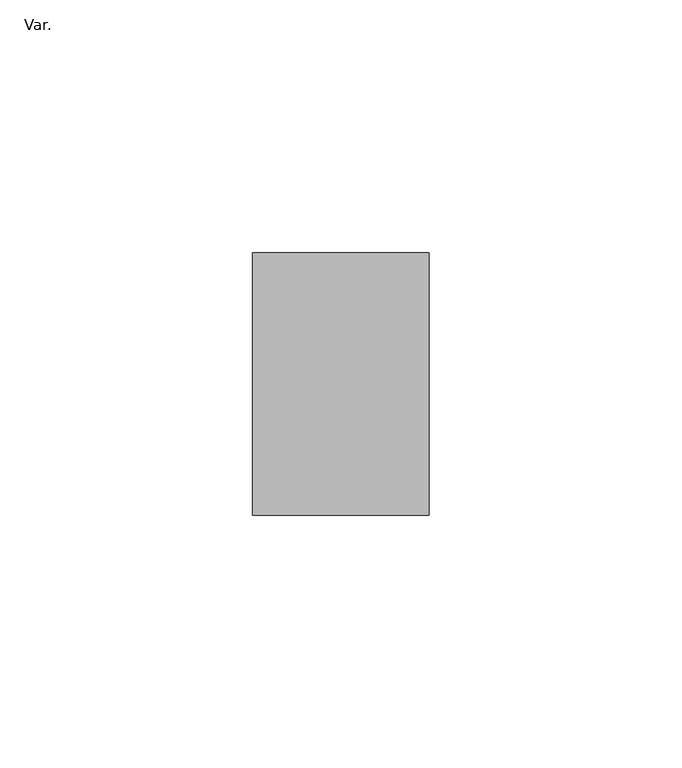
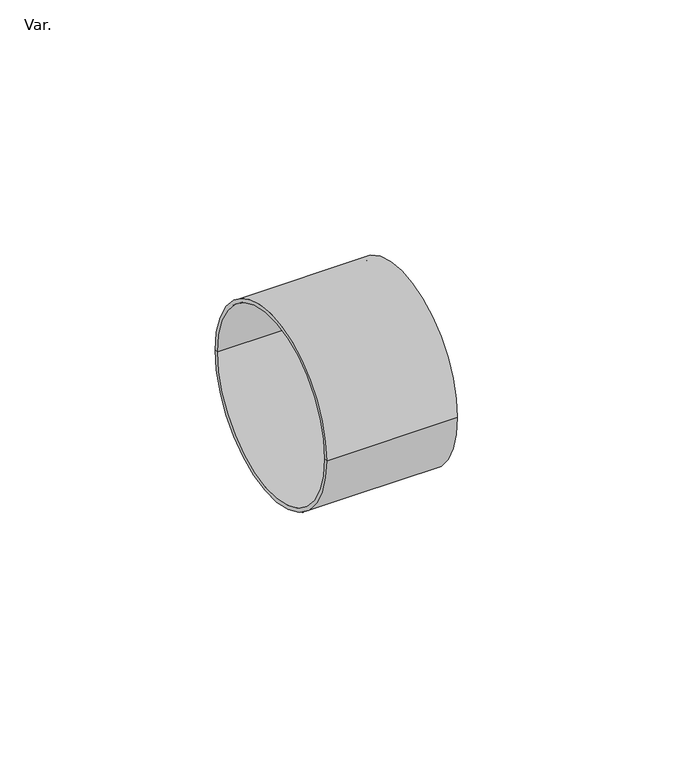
"""IFC4 building model written with IfcOpenShell, lengths in millimetres: pipe fitting geometry, PIF_HDPE cap for pipe_Akatherm : Var.."""

from ifc_helpers import new_model, si_unit, frame, origin, place, context, project, spatial, polyline, circle_curve, source, transform, mapped, element, save
from ifc_brep_helpers import plane_surface, cylinder_surface, revolved_surface, advanced_brep


def var_9bac737f(model_context):
    return source(origin(), model_context, "Body", "AdvancedBrep", [
        advanced_brep(
        [(0.0, 0.0, 0.0), (0.0, 25.0, 0.0), (0.0, -25.0, 0.0), (1.0, -26.0, 0.0), (1.0, 26.0, 0.0), (1.0, 0.0, 0.0), (-34.0, -26.0, 0.0), (-34.0, 26.0, 0.0), (-34.0, -25.0, 0.0), (-34.0, 25.0, 0.0)],
        [
            (0, 1),
            (1, 2, circle_curve(frame((0.0, 0.0, 0.0), z_axis=(-1.0, 0.0, 0.0), x_axis=(0.0, 1.0, 0.0)), 25.0)),
            (2, 0),
            (2, 1, circle_curve(frame((0.0, 0.0, 0.0), z_axis=(-1.0, 0.0, 0.0), x_axis=(0.0, 1.0, 0.0)), 25.0)),
            (3, 4, circle_curve(frame((1.0, 0.0, 0.0), z_axis=(1.0, 0.0, 0.0), x_axis=(0.0, 1.0, 0.0)), 26.0)),
            (4, 5),
            (5, 3),
            (4, 3, circle_curve(frame((1.0, 0.0, 0.0), z_axis=(1.0, 0.0, 0.0), x_axis=(0.0, 1.0, 0.0)), 26.0)),
            (6, 7, circle_curve(frame((-34.0, 0.0, 0.0), z_axis=(1.0, 0.0, 0.0), x_axis=(0.0, 1.0, 0.0)), 26.0)),
            (7, 4),
            (3, 6),
            (7, 6, circle_curve(frame((-34.0, 0.0, 0.0), z_axis=(1.0, 0.0, 0.0), x_axis=(0.0, 1.0, 0.0)), 26.0)),
            (8, 9, circle_curve(frame((-34.0, 0.0, 0.0), z_axis=(1.0, 0.0, 0.0), x_axis=(0.0, 1.0, 0.0)), 25.0)),
            (9, 7),
            (6, 8),
            (9, 8, circle_curve(frame((-34.0, 0.0, 0.0), z_axis=(1.0, 0.0, 0.0), x_axis=(0.0, 1.0, 0.0)), 25.0)),
            (1, 9),
            (8, 2),
        ],
        [
            plane_surface(frame((0.0, 0.0, 0.0), z_axis=(-1.0, 0.0, 0.0), x_axis=(0.0, 1.0, 0.0))),
            plane_surface(frame((1.0, 0.0, 0.0), z_axis=(1.0, 0.0, 0.0), x_axis=(0.0, 1.0, 0.0))),
            cylinder_surface(frame((-74.0, 0.0, 0.0), z_axis=(-1.0, 0.0, 0.0), x_axis=(0.0, 1.0, 0.0)), 26.0),
            plane_surface(frame((-34.0, 0.0, 0.0), z_axis=(-1.0, 0.0, 0.0), x_axis=(0.0, 1.0, 0.0))),
            revolved_surface(polyline([(-34.0, 25.0, 0.0), (0.0, 25.0, 0.0)]), (-74.0, 0.0, 0.0), (-1.0, 0.0, 0.0)),
        ],
        [
            (0, [[1, 2, 3]]),
            (0, [[-3, 4, -1]]),
            (1, [[5, 6, 7]]),
            (1, [[8, -7, -6]]),
            (2, [[9, 10, -5, 11]]),
            (2, [[12, -11, -8, -10]]),
            (3, [[13, 14, -9, 15]]),
            (3, [[16, -15, -12, -14]]),
            (4, [[-2, 17, -13, 18]]),
            (4, [[-4, -18, -16, -17]]),
        ],
    ),
    ])


if __name__ == "__main__":
    model = new_model("IFC4")
    model_context = context("Model", 3, world=origin())
    ifc_project = project(units=[si_unit("LENGTHUNIT", "METRE", prefix="MILLI")], contexts=[model_context])
    site = spatial("IfcSite", under=ifc_project)
    building = spatial("IfcBuilding", under=site)
    placement = place(None, origin())
    var_shape = var_9bac737f(model_context)
    element("IfcPipeFitting", 1, ObjectType="PIF_HDPE cap for pipe_Akatherm : Var.", at=placement, inside=building, context=model_context, shape_type="MappedRepresentation", body=[
        mapped(var_shape, transform((0.0, 0.0, 0.0), x_axis=(1.0, 0.0, 0.0), y_axis=(0.0, 1.0, 0.0), z_axis=(0.0, 0.0, 1.0))),
    ])
    save(model, "model.ifc")
